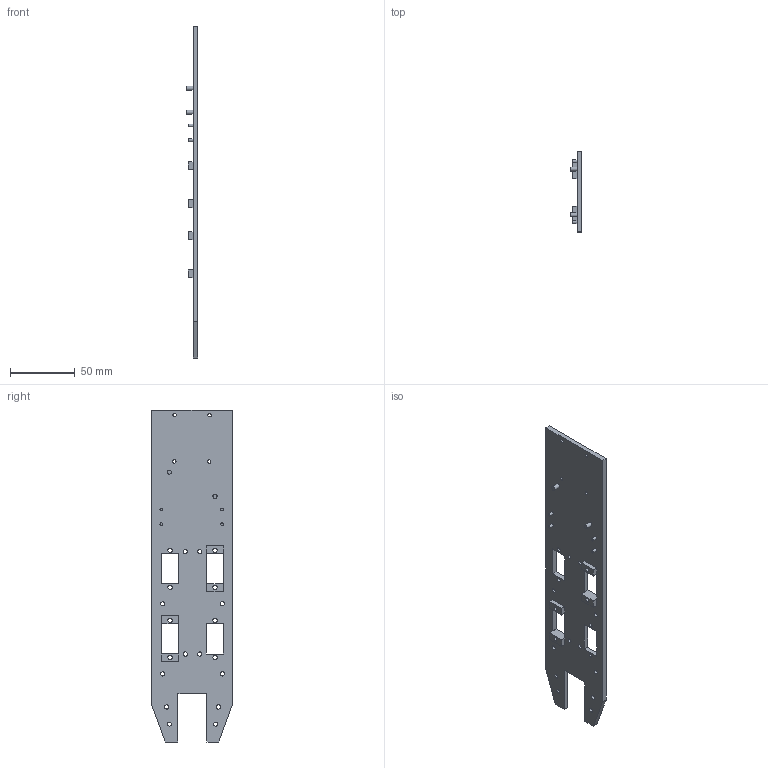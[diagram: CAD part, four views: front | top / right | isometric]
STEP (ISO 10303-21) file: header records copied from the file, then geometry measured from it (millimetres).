
FILE_DESCRIPTION(/* description */ ('STEP AP242 Edition 2','CAx-IF Rec.Pracs.---Representation and Presentation of Product Manufacturing Information (PMI)---4.0---2014-10-13','CAx-IF Rec.Pracs.---3D Tessellated Geometry---0.4---2014-09-14','2;1','CAx-IF Rec.Pracs.---User Defined Attributes---1.5---2016-08-15'),/* implementation_level */ '2;1');
FILE_NAME(/* name */ 'Main - servo board',/* time_stamp */ '2026-06-25T16:15:31Z',/* author */ (''),/* organization */ (''),/* preprocessor_version */ 'ST-DEVELOPER v20',/* originating_system */ 'ONSHAPE BY PTC INC, 1.216',/* authorisation */ ' ');
FILE_SCHEMA (('AP242_MANAGED_MODEL_BASED_3D_ENGINEERING_MIM_LF { 1 0 10303 442 3 1 4 }'));
Length unit declared in the file: metre
Products named in the file (1): servo board
Bounding box: 9.2 x 62.18 x 256.57 mm (x, y, z)
Volume: 51902.5 mm3; surface area: 32334.8 mm2
Topology: 1 solids, 1 shells, 100 faces, 274 edges, 184 vertices
Faces by surface type: plane 70, cylinder 30
Full cylindrical faces by diameter (mm): 2.116 x4, 2.685 x4, 3.036 x1, 3.049 x1, 3.052 x1, 3.054 x1, 3.206 x2, 3.244 x2, 3.251 x1, 3.258 x1, 3.259 x3, 3.262 x1, 3.264 x1, 3.265 x1, 3.266 x1, 3.271 x3, 3.272 x1, 3.273 x1
Entity records: 3118 total; most frequent: CARTESIAN_POINT 521, DIRECTION 502, ORIENTED_EDGE 480, EDGE_CURVE 240, EDGE_LOOP 194, FACE_BOUND 194, VERTEX_POINT 180, LINE 180
